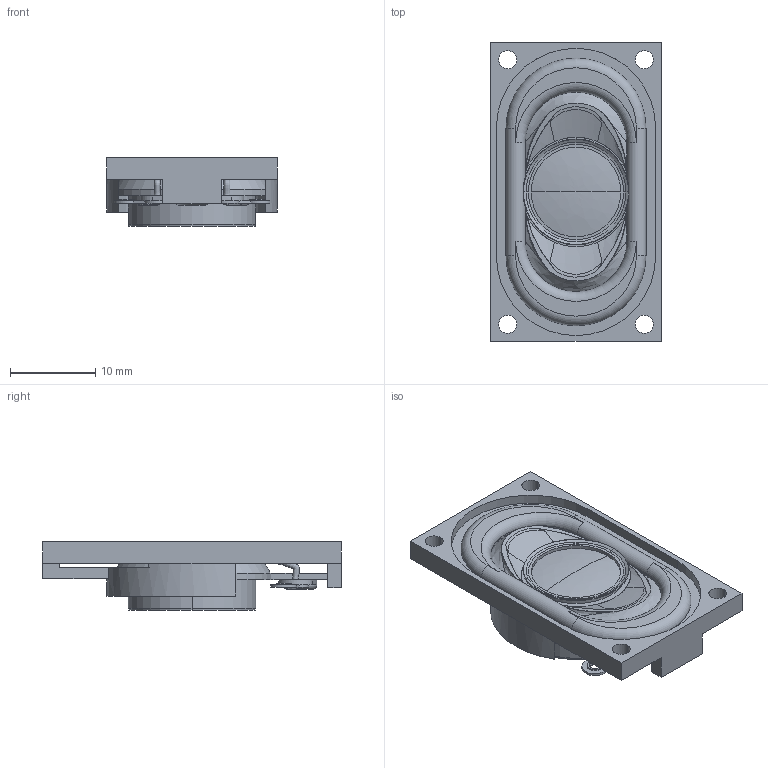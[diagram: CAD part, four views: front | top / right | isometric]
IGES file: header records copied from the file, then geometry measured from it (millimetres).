
Global section: file name: No Iges File Name specified; native system: AutoDesk Inventor R12.0; preprocessor: AutoDesk Inventor Iges Exporter R12.0; date: 20090220.151823; units: millimetre
Bounding box: 20 x 35 x 8 mm (x, y, z)
Volume: 2257.8 mm3; surface area: 3533.3 mm2
Topology: 1 solids, 1 shells, 236 faces, 615 edges, 372 vertices
Faces by surface type: plane 82, bspline 53, cylinder 36, revolution 35, torus 18, cone 12
